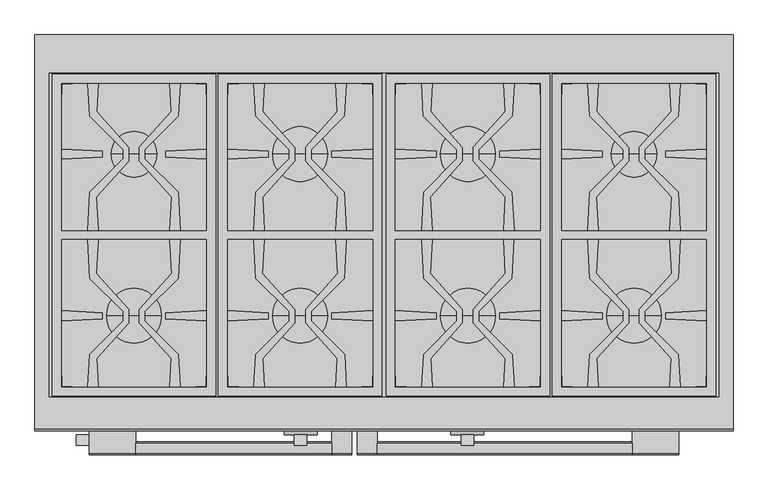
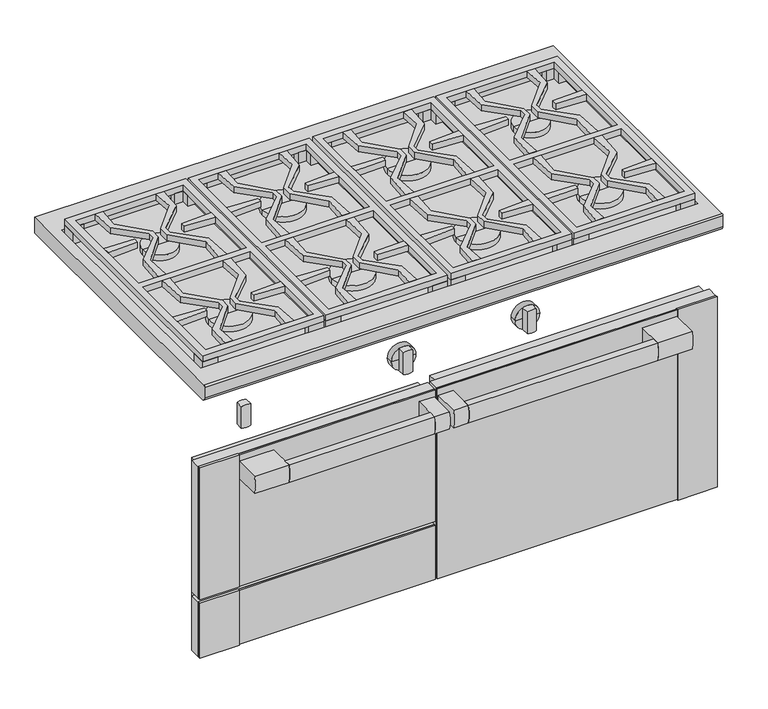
"""IFC4 building model written with IfcOpenShell, lengths in millimetres: proxy geometry, 11791670_USA_HR1954-3G_EDST-CLST : 25195481_USA_11791670_HR1954-3G_EDST-CLST."""

from ifc_helpers import new_model, si_unit, point, frame, frame_2d, origin, place, context, project, spatial, polyline, circle_curve, trimmed, segment, composite_curve, outline, extrude, faceted_brep, source, transform, mapped, element, save
from ifc_brep_helpers import plane_surface, cylinder_surface, advanced_brep


def specialty_equipment_d0c5894f(model_context):
    return source(origin(), model_context, "Body", "SolidModel", [
        extrude(outline(composite_curve([segment(trimmed(circle_curve(frame_2d((-655.4583333, 645.5)), 78.5416667), [point((-731.0, 624.0))], [point((-731.0, 667.0))], False, "CARTESIAN"), True, "CONTINUOUS"), segment(polyline([(-731.0, 667.0), (-714.0, 667.0)]), True, "CONTINUOUS"), segment(trimmed(circle_curve(frame_2d((-789.5416667, 645.5)), 78.5416667), [point((-714.0, 667.0))], [point((-714.0, 624.0))], False, "CARTESIAN"), True, "CONTINUOUS"), segment(polyline([(-714.0, 624.0), (-731.0, 624.0)]), True, "CONTINUOUS")], self_intersect=False)), frame((-11.5, 0.0, 0.0), z_axis=(1.0, 0.0, 0.0), x_axis=(0.0, 1.0, 0.0)), (0.0, 0.0, 1.0), 445.0),
        extrude(outline(composite_curve([segment(trimmed(circle_curve(frame_2d((-655.4583333, 645.5)), 78.5416667), [point((-731.0, 624.0))], [point((-731.0, 667.0))], False, "CARTESIAN"), True, "CONTINUOUS"), segment(polyline([(-731.0, 667.0), (-714.0, 667.0)]), True, "CONTINUOUS"), segment(trimmed(circle_curve(frame_2d((-789.5416667, 645.5)), 78.5416667), [point((-714.0, 667.0))], [point((-714.0, 624.0))], False, "CARTESIAN"), True, "CONTINUOUS"), segment(polyline([(-714.0, 624.0), (-731.0, 624.0)]), True, "CONTINUOUS")], self_intersect=False)), frame((-433.5, 0.0, 0.0), z_axis=(1.0, 0.0, 0.0), x_axis=(0.0, 1.0, 0.0)), (0.0, 0.0, 1.0), 342.0),
        extrude(outline(composite_curve([segment(polyline([(-731.0, 667.0), (-668.7, 667.0), (-668.7, 624.0), (-731.0, 624.0)]), True, "CONTINUOUS"), segment(trimmed(circle_curve(frame_2d((-655.4583333, 645.5)), 78.5416667), [point((-731.0, 624.0))], [point((-731.0, 667.0))], False, "CARTESIAN"), True, "CONTINUOUS")], self_intersect=False)), frame((-46.5, 0.0, 0.0), z_axis=(1.0, 0.0, 0.0), x_axis=(0.0, 1.0, 0.0)), (0.0, 0.0, 1.0), 35.0),
        extrude(outline(composite_curve([segment(polyline([(-731.0, 667.0), (-668.7, 667.0), (-668.7, 624.0), (-731.0, 624.0)]), True, "CONTINUOUS"), segment(trimmed(circle_curve(frame_2d((-655.4583333, 645.5)), 78.5416667), [point((-731.0, 624.0))], [point((-731.0, 667.0))], False, "CARTESIAN"), True, "CONTINUOUS")], self_intersect=False)), frame((-91.5, 0.0, 0.0), z_axis=(1.0, 0.0, 0.0), x_axis=(0.0, 1.0, 0.0)), (0.0, 0.0, 1.0), 35.0),
        extrude(outline(composite_curve([segment(polyline([(-731.0, 667.0), (-668.7, 667.0), (-668.7, 624.0), (-731.0, 624.0)]), True, "CONTINUOUS"), segment(trimmed(circle_curve(frame_2d((-655.4583333, 645.5)), 78.5416667), [point((-731.0, 624.0))], [point((-731.0, 667.0))], False, "CARTESIAN"), True, "CONTINUOUS")], self_intersect=False)), frame((433.5, 0.0, 0.0), z_axis=(1.0, 0.0, 0.0), x_axis=(0.0, 1.0, 0.0)), (0.0, 0.0, 1.0), 81.0),
        extrude(outline(composite_curve([segment(polyline([(-668.7, 667.0), (-668.7, 624.0), (-731.0, 624.0)]), True, "CONTINUOUS"), segment(trimmed(circle_curve(frame_2d((-655.4583333, 645.5)), 78.5416667), [point((-731.0, 624.0))], [point((-731.0, 667.0))], False, "CARTESIAN"), True, "CONTINUOUS"), segment(polyline([(-731.0, 667.0), (-668.7, 667.0)]), True, "CONTINUOUS")], self_intersect=False)), frame((-514.5, 0.0, 0.0), z_axis=(1.0, 0.0, 0.0), x_axis=(0.0, 1.0, 0.0)), (0.0, 0.0, 1.0), 81.0),
        extrude(outline(polyline([(-596.5, -617.0), (-65.5, -617.0), (-65.5, -638.0), (-596.5, -638.0), (-596.5, -617.0)])), frame((0.0, 0.0, 211.5), z_axis=(0.0, 0.0, 1.0), x_axis=(1.0, 0.0, 0.0)), (0.0, 0.0, 1.0), 134.0),
        extrude(outline(polyline([(-596.5, -617.0), (-65.5, -617.0), (-65.5, -638.0), (-596.5, -638.0), (-596.5, -617.0)])), frame((0.0, 0.0, 359.0), z_axis=(0.0, 0.0, 1.0), x_axis=(1.0, 0.0, 0.0)), (0.0, 0.0, 1.0), 315.0),
        extrude(outline(polyline([(-36.5, -617.0), (596.5, -617.0), (596.5, -638.0), (-36.5, -638.0), (-36.5, -617.0)])), frame((0.0, 0.0, 218.0), z_axis=(0.0, 0.0, 1.0), x_axis=(1.0, 0.0, 0.0)), (0.0, 0.0, 1.0), 464.0),
        extrude(outline(polyline([(-608.5, -638.0), (-53.5, -638.0), (-53.5, -664.7), (-608.5, -664.7), (-608.5, -638.0)])), frame((0.0, 0.0, 211.0), z_axis=(0.0, 0.0, 1.0), x_axis=(1.0, 0.0, 0.0)), (0.0, 0.0, 1.0), 135.0),
        extrude(outline(polyline([(-48.5, -638.0), (608.5, -638.0), (608.5, -664.7), (-48.5, -664.7), (-48.5, -638.0)])), frame((0.0, 0.0, 211.0), z_axis=(0.0, 0.0, 1.0), x_axis=(1.0, 0.0, 0.0)), (0.0, 0.0, 1.0), 472.0),
        extrude(outline(polyline([(-608.5, -638.0), (-53.5, -638.0), (-53.5, -664.7), (-608.5, -664.7), (-608.5, -638.0)])), frame((0.0, 0.0, 356.0), z_axis=(0.0, 0.0, 1.0), x_axis=(1.0, 0.0, 0.0)), (0.0, 0.0, 1.0), 327.0),
        extrude(outline(polyline([(-607.5, -664.7), (-53.5, -664.7), (-53.5, -668.7), (-607.5, -668.7), (-607.5, -664.7)])), frame((0.0, 0.0, 211.0), z_axis=(0.0, 0.0, 1.0), x_axis=(1.0, 0.0, 0.0)), (0.0, 0.0, 1.0), 135.0),
        faceted_brep([(-515.5, -664.7, 210.0), (-608.5, -664.7, 210.0), (-608.5, -664.7, 347.0), (-515.5, -664.7, 347.0), (-515.5, -664.7, 346.0), (-607.5, -664.7, 346.0), (-607.5, -664.7, 211.0), (-515.5, -664.7, 211.0), (-515.5, -670.0, 347.0), (-608.5, -670.0, 347.0), (-608.5, -670.0, 210.0), (-515.5, -670.0, 210.0), (-515.5, -668.7, 211.0), (-515.5, -668.7, 346.0), (-607.5, -668.7, 211.0), (-607.5, -668.7, 346.0)], [[[0, 1, 2, 3, 4, 5, 6, 7]], [[8, 9, 10, 11]], [[8, 11, 0, 7, 12, 13, 4, 3]], [[1, 0, 11, 10]], [[2, 1, 10, 9]], [[3, 2, 9, 8]], [[12, 14, 15, 13]], [[14, 12, 7, 6]], [[15, 14, 6, 5]], [[13, 15, 5, 4]]]),
        extrude(outline(polyline([(-607.5, -664.7), (-53.5, -664.7), (-53.5, -668.7), (-607.5, -668.7), (-607.5, -664.7)])), frame((0.0, 0.0, 356.0), z_axis=(0.0, 0.0, 1.0), x_axis=(1.0, 0.0, 0.0)), (0.0, 0.0, 1.0), 327.0),
        faceted_brep([(-515.5, -664.7, 355.0), (-608.5, -664.7, 355.0), (-608.5, -664.7, 684.0), (-515.5, -664.7, 684.0), (-515.5, -664.7, 683.0), (-607.5, -664.7, 683.0), (-607.5, -664.7, 356.0), (-515.5, -664.7, 356.0), (-515.5, -670.0, 684.0), (-608.5, -670.0, 684.0), (-608.5, -670.0, 355.0), (-515.5, -670.0, 355.0), (-515.5, -668.7, 356.0), (-515.5, -668.7, 683.0), (-607.5, -668.7, 356.0), (-607.5, -668.7, 683.0)], [[[0, 1, 2, 3, 4, 5, 6, 7]], [[8, 9, 10, 11]], [[8, 11, 0, 7, 12, 13, 4, 3]], [[1, 0, 11, 10]], [[2, 1, 10, 9]], [[3, 2, 9, 8]], [[12, 14, 15, 13]], [[14, 12, 7, 6]], [[15, 14, 6, 5]], [[13, 15, 5, 4]]]),
        extrude(outline(polyline([(-48.5, -664.7), (607.5, -664.7), (607.5, -668.7), (-48.5, -668.7), (-48.5, -664.7)])), frame((0.0, 0.0, 211.0), z_axis=(0.0, 0.0, 1.0), x_axis=(1.0, 0.0, 0.0)), (0.0, 0.0, 1.0), 472.0),
        faceted_brep([(608.5, -664.7, 684.0), (608.5, -664.7, 210.0), (515.5, -664.7, 210.0), (515.5, -664.7, 211.0), (607.5, -664.7, 211.0), (607.5, -664.7, 683.0), (515.5, -664.7, 683.0), (515.5, -664.7, 684.0), (608.5, -670.0, 684.0), (515.5, -670.0, 684.0), (515.5, -670.0, 210.0), (608.5, -670.0, 210.0), (515.5, -668.7, 683.0), (515.5, -668.7, 211.0), (607.5, -668.7, 683.0), (607.5, -668.7, 211.0)], [[[0, 1, 2, 3, 4, 5, 6, 7]], [[8, 9, 10, 11]], [[1, 0, 8, 11]], [[2, 1, 11, 10]], [[10, 9, 7, 6, 12, 13, 3, 2]], [[0, 7, 9, 8]], [[14, 15, 13, 12]], [[15, 14, 5, 4]], [[13, 15, 4, 3]], [[14, 12, 6, 5]]]),
        extrude(outline(polyline([(355.9177304, -358.0273828), (373.9174107, -358.0273828), (370.8474419, -416.9894265), (426.9590566, -479.568392), (426.9590566, -503.4471434), (371.3930533, -565.5024535), (374.0051055, -615.0212482), (356.0054252, -615.0212482), (358.9706458, -558.0710081), (417.3494553, -499.6921986), (417.3494553, -483.3657133), (359.4764383, -425.4926963), (355.9177304, -358.0273828)])), frame((0.0, 0.0, 914.0), z_axis=(0.0, 0.0, 1.0), x_axis=(1.0, 0.0, 0.0)), (0.0, 0.0, 1.0), 15.0),
        extrude(outline(polyline([(502.0666917, -416.9448139), (498.9588735, -358.0273828), (516.9534566, -358.0273828), (513.4434746, -425.4403498), (455.5712231, -483.3126013), (455.5712231, -499.6295194), (514.0438392, -558.1021355), (517.0462487, -615.0212482), (499.041471, -615.0212482), (501.6220648, -565.4581775), (445.9590702, -503.3795395), (445.9590702, -479.6049953), (502.0666917, -416.9448139)])), frame((0.0, 0.0, 914.0), z_axis=(0.0, 0.0, 1.0), x_axis=(1.0, 0.0, 0.0)), (0.0, 0.0, 1.0), 15.0),
        extrude(outline(polyline([(65.9177304, -358.0273828), (83.9174107, -358.0273828), (80.8474419, -416.9894265), (136.9590566, -479.568392), (136.9590566, -503.4471434), (81.3930533, -565.5024535), (84.0051055, -615.0212482), (66.0054252, -615.0212482), (68.9706458, -558.0710081), (127.3494553, -499.6921986), (127.3494553, -483.3657133), (69.4764383, -425.4926963), (65.9177304, -358.0273828)])), frame((0.0, 0.0, 914.0), z_axis=(0.0, 0.0, 1.0), x_axis=(1.0, 0.0, 0.0)), (0.0, 0.0, 1.0), 15.0),
        extrude(outline(polyline([(212.0666917, -416.9448139), (208.9588735, -358.0273828), (226.9534566, -358.0273828), (223.4434746, -425.4403498), (165.5712231, -483.3126013), (165.5712231, -499.6295194), (224.0438392, -558.1021355), (227.0462487, -615.0212482), (209.041471, -615.0212482), (211.6220648, -565.4581775), (155.9590702, -503.3795395), (155.9590702, -479.6049953), (212.0666917, -416.9448139)])), frame((0.0, 0.0, 914.0), z_axis=(0.0, 0.0, 1.0), x_axis=(1.0, 0.0, 0.0)), (0.0, 0.0, 1.0), 15.0),
        extrude(outline(polyline([(-227.0822696, -358.0273828), (-209.0825893, -358.0273828), (-212.1525581, -416.9894265), (-156.0409434, -479.568392), (-156.0409434, -503.4471434), (-211.6069467, -565.5024535), (-208.9948945, -615.0212482), (-226.9945748, -615.0212482), (-224.0293542, -558.0710081), (-165.6505447, -499.6921986), (-165.6505447, -483.3657133), (-223.5235617, -425.4926963), (-227.0822696, -358.0273828)])), frame((0.0, 0.0, 914.0), z_axis=(0.0, 0.0, 1.0), x_axis=(1.0, 0.0, 0.0)), (0.0, 0.0, 1.0), 15.0),
        extrude(outline(polyline([(-84.0411265, -358.0273828), (-66.0465434, -358.0273828), (-69.5565254, -425.4403498), (-127.4287769, -483.3126013), (-127.4287769, -499.6295194), (-68.9561608, -558.1021355), (-65.9537513, -615.0212482), (-83.958529, -615.0212482), (-81.3779352, -565.4581775), (-137.0409298, -503.3795395), (-137.0409298, -479.6049953), (-80.9333083, -416.9448139), (-84.0411265, -358.0273828)])), frame((0.0, 0.0, 914.0), z_axis=(0.0, 0.0, 1.0), x_axis=(1.0, 0.0, 0.0)), (0.0, 0.0, 1.0), 15.0),
        extrude(outline(polyline([(-358.9561608, -558.1021355), (-355.9537513, -615.0212482), (-373.958529, -615.0212482), (-371.3779352, -565.4581775), (-427.0409298, -503.3795395), (-427.0409298, -479.6049953), (-370.9333083, -416.9448139), (-374.0411265, -358.0273828), (-356.0465434, -358.0273828), (-359.5565254, -425.4403498), (-417.4287769, -483.3126013), (-417.4287769, -499.6295194), (-358.9561608, -558.1021355)])), frame((0.0, 0.0, 914.0), z_axis=(0.0, 0.0, 1.0), x_axis=(1.0, 0.0, 0.0)), (0.0, 0.0, 1.0), 15.0),
        extrude(outline(polyline([(-501.6069467, -565.5024535), (-498.9948945, -615.0212482), (-516.9945748, -615.0212482), (-514.0293542, -558.0710081), (-455.6505447, -499.6921986), (-455.6505447, -483.3657133), (-513.5235617, -425.4926963), (-517.0822696, -358.0273828), (-499.0825893, -358.0273828), (-502.1525581, -416.9894265), (-446.0409434, -479.568392), (-446.0409434, -503.4471434), (-501.6069467, -565.5024535)])), frame((0.0, 0.0, 914.0), z_axis=(0.0, 0.0, 1.0), x_axis=(1.0, 0.0, 0.0)), (0.0, 0.0, 1.0), 15.0),
        extrude(outline(polyline([(355.9614138, -85.0), (373.9614138, -85.0), (371.3661974, -134.5196799), (427.0, -196.6082182), (427.0, -220.3917818), (370.8710782, -283.0328838), (373.9614138, -342.0), (355.9614138, -342.0), (359.4971843, -274.5334805), (417.3891082, -216.6415566), (417.3891082, -200.3584434), (358.9441217, -141.9134569), (355.9614138, -85.0)])), frame((0.0, 0.0, 914.0), z_axis=(0.0, 0.0, 1.0), x_axis=(1.0, 0.0, 0.0)), (0.0, 0.0, 1.0), 15.0),
        extrude(outline(polyline([(499.0, -85.0), (517.0, -85.0), (514.0172921, -141.9134569), (455.6108918, -200.3198573), (455.6108918, -216.6801428), (513.4642295, -274.5334805), (517.0, -342.0), (499.0, -342.0), (502.0903356, -283.0328839), (446.0, -220.4348449), (446.0, -196.5651551), (501.5952165, -134.5196799), (499.0, -85.0)])), frame((0.0, 0.0, 914.0), z_axis=(0.0, 0.0, 1.0), x_axis=(1.0, 0.0, 0.0)), (0.0, 0.0, 1.0), 15.0),
        extrude(outline(polyline([(-227.0385862, -85.0), (-209.0385862, -85.0), (-211.6338026, -134.5196799), (-156.0, -196.6082182), (-156.0, -220.3917818), (-212.1289218, -283.0328838), (-209.0385862, -342.0), (-227.0385862, -342.0), (-223.5028157, -274.5334805), (-165.6108918, -216.6415566), (-165.6108918, -200.3584434), (-224.0558783, -141.9134569), (-227.0385862, -85.0)])), frame((0.0, 0.0, 914.0), z_axis=(0.0, 0.0, 1.0), x_axis=(1.0, 0.0, 0.0)), (0.0, 0.0, 1.0), 15.0),
        extrude(outline(polyline([(-84.0, -85.0), (-66.0, -85.0), (-68.9827079, -141.9134569), (-127.3891082, -200.3198573), (-127.3891082, -216.6801428), (-69.5357705, -274.5334805), (-66.0, -342.0), (-84.0, -342.0), (-80.9096644, -283.0328839), (-137.0, -220.4348449), (-137.0, -196.5651551), (-81.4047835, -134.5196799), (-84.0, -85.0)])), frame((0.0, 0.0, 914.0), z_axis=(0.0, 0.0, 1.0), x_axis=(1.0, 0.0, 0.0)), (0.0, 0.0, 1.0), 15.0),
        extrude(outline(polyline([(83.9614138, -85.0), (81.3661974, -134.5196799), (137.0, -196.6082182), (137.0, -220.3917818), (80.8710782, -283.0328838), (83.9614138, -342.0), (65.9614138, -342.0), (69.4971843, -274.5334805), (127.3891082, -216.6415566), (127.3891082, -200.3584434), (68.9441217, -141.9134569), (65.9614138, -85.0), (83.9614138, -85.0)])), frame((0.0, 0.0, 914.0), z_axis=(0.0, 0.0, 1.0), x_axis=(1.0, 0.0, 0.0)), (0.0, 0.0, 1.0), 15.0),
        extrude(outline(polyline([(211.5952165, -134.5196799), (209.0, -85.0), (227.0, -85.0), (224.0172921, -141.9134569), (165.6108918, -200.3198573), (165.6108918, -216.6801428), (223.4642295, -274.5334805), (227.0, -342.0), (209.0, -342.0), (212.0903356, -283.0328839), (156.0, -220.4348449), (156.0, -196.5651551), (211.5952165, -134.5196799)])), frame((0.0, 0.0, 914.0), z_axis=(0.0, 0.0, 1.0), x_axis=(1.0, 0.0, 0.0)), (0.0, 0.0, 1.0), 15.0),
        extrude(outline(polyline([(579.0, -67.0), (579.0, -633.0), (294.0, -633.0), (294.0, -67.0), (579.0, -67.0)])), frame((0.0, 0.0, 870.0), z_axis=(0.0, 0.0, 1.0), x_axis=(1.0, 0.0, 0.0)), (0.0, 0.0, 1.0), 17.0),
        extrude(outline(polyline([(-294.0, -67.0), (-294.0, -633.0), (-579.0, -633.0), (-579.0, -67.0), (-294.0, -67.0)])), frame((0.0, 0.0, 870.0), z_axis=(0.0, 0.0, 1.0), x_axis=(1.0, 0.0, 0.0)), (0.0, 0.0, 1.0), 17.0),
        extrude(outline(polyline([(289.0, -69.0), (289.0, -631.0), (4.0, -631.0), (4.0, -69.0), (289.0, -69.0)])), frame((0.0, 0.0, 870.0), z_axis=(0.0, 0.0, 1.0), x_axis=(1.0, 0.0, 0.0)), (0.0, 0.0, 1.0), 17.0),
        extrude(outline(polyline([(-4.0, -67.0), (-4.0, -633.0), (-289.0, -633.0), (-289.0, -67.0), (-4.0, -67.0)])), frame((0.0, 0.0, 870.0), z_axis=(0.0, 0.0, 1.0), x_axis=(1.0, 0.0, 0.0)), (0.0, 0.0, 1.0), 17.0),
        extrude(outline(polyline([(-202.0, -213.7921261), (-273.0, -217.4578849), (-273.0, -199.5421151), (-202.0, -203.2078739), (-202.0, -213.7921261)])), frame((0.0, 0.0, 914.0), z_axis=(0.0, 0.0, 1.0), x_axis=(1.0, 0.0, 0.0)), (0.0, 0.0, 1.0), 15.0),
        extrude(outline(polyline([(-20.0, -199.5029948), (-20.0, -217.4970052), (-91.0, -213.7790477), (-91.0, -203.2209523), (-20.0, -199.5029948)])), frame((0.0, 0.0, 914.0), z_axis=(0.0, 0.0, 1.0), x_axis=(1.0, 0.0, 0.0)), (0.0, 0.0, 1.0), 15.0),
        extrude(outline(polyline([(-202.0, -496.2921261), (-273.0, -499.9578849), (-273.0, -482.0421151), (-202.0, -485.7078739), (-202.0, -496.2921261)])), frame((0.0, 0.0, 914.0), z_axis=(0.0, 0.0, 1.0), x_axis=(1.0, 0.0, 0.0)), (0.0, 0.0, 1.0), 15.0),
        extrude(outline(polyline([(-20.0, -482.0029948), (-20.0, -499.9970052), (-91.0, -496.2790477), (-91.0, -485.7209523), (-20.0, -482.0029948)])), frame((0.0, 0.0, 914.0), z_axis=(0.0, 0.0, 1.0), x_axis=(1.0, 0.0, 0.0)), (0.0, 0.0, 1.0), 15.0),
        extrude(outline(polyline([(-4.0, -631.0), (-39.0, -631.0), (-39.0, -615.0), (-20.0, -615.0), (-20.0, -596.0), (-4.0, -596.0), (-4.0, -631.0)])), frame((0.0, 0.0, 887.0), z_axis=(0.0, 0.0, 1.0), x_axis=(1.0, 0.0, 0.0)), (0.0, 0.0, 1.0), 27.0),
        extrude(outline(polyline([(-289.0, -631.0), (-289.0, -596.0), (-273.0, -596.0), (-273.0, -615.0), (-254.0, -615.0), (-254.0, -631.0), (-289.0, -631.0)])), frame((0.0, 0.0, 887.0), z_axis=(0.0, 0.0, 1.0), x_axis=(1.0, 0.0, 0.0)), (0.0, 0.0, 1.0), 27.0),
        extrude(outline(polyline([(-4.0, -69.0), (-4.0, -104.0), (-20.0, -104.0), (-20.0, -85.0), (-39.0, -85.0), (-39.0, -69.0), (-4.0, -69.0)])), frame((0.0, 0.0, 887.0), z_axis=(0.0, 0.0, 1.0), x_axis=(1.0, 0.0, 0.0)), (0.0, 0.0, 1.0), 27.0),
        extrude(outline(polyline([(-289.0, -69.0), (-254.0, -69.0), (-254.0, -85.0), (-273.0, -85.0), (-273.0, -104.0), (-289.0, -104.0), (-289.0, -69.0)])), frame((0.0, 0.0, 887.0), z_axis=(0.0, 0.0, 1.0), x_axis=(1.0, 0.0, 0.0)), (0.0, 0.0, 1.0), 27.0),
        extrude(outline(polyline([(-563.0, -217.4810574), (-563.0, -199.5189426), (-492.0, -203.2078739), (-492.0, -213.7921261), (-563.0, -217.4810574)])), frame((0.0, 0.0, 914.0), z_axis=(0.0, 0.0, 1.0), x_axis=(1.0, 0.0, 0.0)), (0.0, 0.0, 1.0), 15.0),
        extrude(outline(polyline([(-310.0, -199.5262039), (-310.0, -217.4737961), (-381.0, -213.7790477), (-381.0, -203.2209523), (-310.0, -199.5262039)])), frame((0.0, 0.0, 914.0), z_axis=(0.0, 0.0, 1.0), x_axis=(1.0, 0.0, 0.0)), (0.0, 0.0, 1.0), 15.0),
        extrude(outline(polyline([(-563.0, -499.9810574), (-563.0, -482.0189426), (-492.0, -485.7078739), (-492.0, -496.2921261), (-563.0, -499.9810574)])), frame((0.0, 0.0, 914.0), z_axis=(0.0, 0.0, 1.0), x_axis=(1.0, 0.0, 0.0)), (0.0, 0.0, 1.0), 15.0),
        extrude(outline(polyline([(-310.0, -482.0262039), (-310.0, -499.9737961), (-381.0, -496.2790477), (-381.0, -485.7209523), (-310.0, -482.0262039)])), frame((0.0, 0.0, 914.0), z_axis=(0.0, 0.0, 1.0), x_axis=(1.0, 0.0, 0.0)), (0.0, 0.0, 1.0), 15.0),
        extrude(outline(polyline([(20.0337834, -499.9810574), (20.0337834, -482.0189426), (91.0337834, -485.7078739), (91.0337834, -496.2921261), (20.0337834, -499.9810574)])), frame((0.0, 0.0, 914.0), z_axis=(0.0, 0.0, 1.0), x_axis=(1.0, 0.0, 0.0)), (0.0, 0.0, 1.0), 15.0),
        extrude(outline(polyline([(273.0337834, -482.0262039), (273.0337834, -499.9737961), (202.0337834, -496.2790477), (202.0337834, -485.7209523), (273.0337834, -482.0262039)])), frame((0.0, 0.0, 914.0), z_axis=(0.0, 0.0, 1.0), x_axis=(1.0, 0.0, 0.0)), (0.0, 0.0, 1.0), 15.0),
        extrude(outline(polyline([(310.0, -499.9810574), (310.0, -482.0189426), (381.0, -485.7078739), (381.0, -496.2921261), (310.0, -499.9810574)])), frame((0.0, 0.0, 914.0), z_axis=(0.0, 0.0, 1.0), x_axis=(1.0, 0.0, 0.0)), (0.0, 0.0, 1.0), 15.0),
        extrude(outline(polyline([(563.0, -482.0262039), (563.0, -499.9737961), (492.0, -496.2790477), (492.0, -485.7209523), (563.0, -482.0262039)])), frame((0.0, 0.0, 914.0), z_axis=(0.0, 0.0, 1.0), x_axis=(1.0, 0.0, 0.0)), (0.0, 0.0, 1.0), 15.0),
        extrude(outline(polyline([(310.0, -217.4810574), (310.0, -199.5189426), (381.0, -203.2078739), (381.0, -213.7921261), (310.0, -217.4810574)])), frame((0.0, 0.0, 914.0), z_axis=(0.0, 0.0, 1.0), x_axis=(1.0, 0.0, 0.0)), (0.0, 0.0, 1.0), 15.0),
        extrude(outline(polyline([(563.0, -199.5262039), (563.0, -217.4737961), (492.0, -213.7790477), (492.0, -203.2209523), (563.0, -199.5262039)])), frame((0.0, 0.0, 914.0), z_axis=(0.0, 0.0, 1.0), x_axis=(1.0, 0.0, 0.0)), (0.0, 0.0, 1.0), 15.0),
        extrude(outline(polyline([(-517.0385862, -85.0), (-499.0385862, -85.0), (-501.6338026, -134.5196799), (-446.0, -196.6082182), (-446.0, -220.3917818), (-502.1289218, -283.0328838), (-499.0385862, -342.0), (-517.0385862, -342.0), (-513.5028157, -274.5334805), (-455.6108918, -216.6415566), (-455.6108918, -200.3584434), (-514.0558783, -141.9134569), (-517.0385862, -85.0)])), frame((0.0, 0.0, 914.0), z_axis=(0.0, 0.0, 1.0), x_axis=(1.0, 0.0, 0.0)), (0.0, 0.0, 1.0), 15.0),
        extrude(outline(polyline([(-356.0, -85.0), (-358.9827079, -141.9134569), (-417.3891082, -200.3198573), (-417.3891082, -216.6801428), (-359.5357705, -274.5334805), (-356.0, -342.0), (-374.0, -342.0), (-370.9096644, -283.0328839), (-427.0, -220.4348449), (-427.0, -196.5651551), (-371.4047835, -134.5196799), (-374.0, -85.0), (-356.0, -85.0)])), frame((0.0, 0.0, 914.0), z_axis=(0.0, 0.0, 1.0), x_axis=(1.0, 0.0, 0.0)), (0.0, 0.0, 1.0), 15.0),
        extrude(outline(polyline([(-294.0, -631.0), (-329.0, -631.0), (-329.0, -615.0), (-310.0, -615.0), (-310.0, -596.0), (-294.0, -596.0), (-294.0, -631.0)])), frame((0.0, 0.0, 887.0), z_axis=(0.0, 0.0, 1.0), x_axis=(1.0, 0.0, 0.0)), (0.0, 0.0, 1.0), 27.0),
        extrude(outline(polyline([(-579.0, -631.0), (-579.0, -596.0), (-563.0, -596.0), (-563.0, -615.0), (-544.0, -615.0), (-544.0, -631.0), (-579.0, -631.0)])), frame((0.0, 0.0, 887.0), z_axis=(0.0, 0.0, 1.0), x_axis=(1.0, 0.0, 0.0)), (0.0, 0.0, 1.0), 27.0),
        extrude(outline(polyline([(-294.0, -69.0), (-294.0, -104.0), (-310.0, -104.0), (-310.0, -85.0), (-329.0, -85.0), (-329.0, -69.0), (-294.0, -69.0)])), frame((0.0, 0.0, 887.0), z_axis=(0.0, 0.0, 1.0), x_axis=(1.0, 0.0, 0.0)), (0.0, 0.0, 1.0), 27.0),
        extrude(outline(polyline([(-579.0, -69.0), (-544.0, -69.0), (-544.0, -85.0), (-563.0, -85.0), (-563.0, -104.0), (-579.0, -104.0), (-579.0, -69.0)])), frame((0.0, 0.0, 887.0), z_axis=(0.0, 0.0, 1.0), x_axis=(1.0, 0.0, 0.0)), (0.0, 0.0, 1.0), 27.0),
        extrude(outline(polyline([(20.0337834, -217.4810574), (20.0337834, -199.5189426), (91.0337834, -203.2078739), (91.0337834, -213.7921261), (20.0337834, -217.4810574)])), frame((0.0, 0.0, 914.0), z_axis=(0.0, 0.0, 1.0), x_axis=(1.0, 0.0, 0.0)), (0.0, 0.0, 1.0), 15.0),
        extrude(outline(polyline([(273.0337834, -199.5262039), (273.0337834, -217.4737961), (202.0337834, -213.7790477), (202.0337834, -203.2209523), (273.0337834, -199.5262039)])), frame((0.0, 0.0, 914.0), z_axis=(0.0, 0.0, 1.0), x_axis=(1.0, 0.0, 0.0)), (0.0, 0.0, 1.0), 15.0),
        advanced_brep(
        [(396.5, -208.5, 887.0), (476.5, -208.5, 887.0), (476.5, -208.5, 901.0), (396.5, -208.5, 901.0), (436.5, -208.5, 887.0), (436.5, -208.5, 901.0)],
        [
            (0, 1, circle_curve(frame((436.5, -208.5, 887.0), z_axis=(0.0, 0.0, 1.0), x_axis=(1.0, 0.0, 0.0)), 40.0)),
            (1, 2),
            (2, 3, circle_curve(frame((436.5, -208.5, 901.0), z_axis=(0.0, 0.0, -1.0), x_axis=(1.0, 0.0, 0.0)), 40.0)),
            (3, 0),
            (1, 0, circle_curve(frame((436.5, -208.5, 887.0), z_axis=(0.0, 0.0, 1.0), x_axis=(1.0, 0.0, 0.0)), 40.0)),
            (3, 2, circle_curve(frame((436.5, -208.5, 901.0), z_axis=(0.0, 0.0, -1.0), x_axis=(1.0, 0.0, 0.0)), 40.0)),
            (4, 1),
            (0, 4),
            (2, 5),
            (5, 3),
        ],
        [
            cylinder_surface(frame((436.5, -208.5, 2424.4), z_axis=(0.0, 0.0, -1.0), x_axis=(1.0, 0.0, 0.0)), 40.0),
            plane_surface(frame((436.5, -208.5, 887.0), z_axis=(0.0, 0.0, -1.0), x_axis=(1.0, 0.0, 0.0))),
            plane_surface(frame((436.5, -208.5, 901.0), z_axis=(0.0, 0.0, 1.0), x_axis=(1.0, 0.0, 0.0))),
        ],
        [
            (0, [[1, 2, 3, 4]]),
            (0, [[5, -4, 6, -2]]),
            (1, [[7, -1, 8]]),
            (1, [[-8, -5, -7]]),
            (2, [[-3, 9, 10]]),
            (2, [[-6, -10, -9]]),
        ],
    ),
        extrude(outline(polyline([(-4.0, -69.0), (-4.0, -631.0), (-289.0, -631.0), (-289.0, -69.0), (-4.0, -69.0)]), holes=[polyline([(-20.0, -85.0), (-273.0, -85.0), (-273.0, -342.0), (-20.0, -342.0), (-20.0, -85.0)]), polyline([(-273.0, -358.0), (-273.0, -615.0), (-20.0, -615.0), (-20.0, -358.0), (-273.0, -358.0)])]), frame((0.0, 0.0, 914.0), z_axis=(0.0, 0.0, 1.0), x_axis=(1.0, 0.0, 0.0)), (0.0, 0.0, 1.0), 15.0),
        extrude(outline(polyline([(289.0, -69.0), (289.0, -631.0), (4.0, -631.0), (4.0, -69.0), (289.0, -69.0)]), holes=[polyline([(273.0337834, -85.0), (20.0337834, -85.0), (20.0337834, -342.0), (273.0337834, -342.0), (273.0337834, -85.0)]), polyline([(20.0337834, -358.0), (20.0337834, -615.0), (273.0337834, -615.0), (273.0337834, -358.0), (20.0337834, -358.0)])]), frame((0.0, 0.0, 914.0), z_axis=(0.0, 0.0, 1.0), x_axis=(1.0, 0.0, 0.0)), (0.0, 0.0, 1.0), 15.0),
        extrude(outline(polyline([(579.0, -69.0), (579.0, -631.0), (294.0, -631.0), (294.0, -69.0), (579.0, -69.0)]), holes=[polyline([(563.0, -85.0), (310.0, -85.0), (310.0, -342.0), (563.0, -342.0), (563.0, -85.0)]), polyline([(310.0, -358.0), (310.0, -615.0), (563.0, -615.0), (563.0, -358.0), (310.0, -358.0)])]), frame((0.0, 0.0, 914.0), z_axis=(0.0, 0.0, 1.0), x_axis=(1.0, 0.0, 0.0)), (0.0, 0.0, 1.0), 15.0),
        extrude(outline(polyline([(-294.0, -69.0), (-294.0, -631.0), (-579.0, -631.0), (-579.0, -69.0), (-294.0, -69.0)]), holes=[polyline([(-310.0, -85.0), (-563.0, -85.0), (-563.0, -342.0), (-310.0, -342.0), (-310.0, -85.0)]), polyline([(-563.0, -358.0), (-563.0, -615.0), (-310.0, -615.0), (-310.0, -358.0), (-563.0, -358.0)])]), frame((0.0, 0.0, 914.0), z_axis=(0.0, 0.0, 1.0), x_axis=(1.0, 0.0, 0.0)), (0.0, 0.0, 1.0), 15.0),
        advanced_brep(
        [(388.5, -491.0, 887.0), (484.5, -491.0, 887.0), (484.5, -491.0, 901.0), (388.5, -491.0, 901.0), (436.5, -491.0, 887.0), (436.5, -491.0, 901.0)],
        [
            (0, 1, circle_curve(frame((436.5, -491.0, 887.0), z_axis=(0.0, 0.0, 1.0), x_axis=(1.0, 0.0, 0.0)), 48.0)),
            (1, 2),
            (2, 3, circle_curve(frame((436.5, -491.0, 901.0), z_axis=(0.0, 0.0, -1.0), x_axis=(1.0, 0.0, 0.0)), 48.0)),
            (3, 0),
            (1, 0, circle_curve(frame((436.5, -491.0, 887.0), z_axis=(0.0, 0.0, 1.0), x_axis=(1.0, 0.0, 0.0)), 48.0)),
            (3, 2, circle_curve(frame((436.5, -491.0, 901.0), z_axis=(0.0, 0.0, -1.0), x_axis=(1.0, 0.0, 0.0)), 48.0)),
            (4, 1),
            (0, 4),
            (2, 5),
            (5, 3),
        ],
        [
            cylinder_surface(frame((436.5, -491.0, 2424.4), z_axis=(0.0, 0.0, -1.0), x_axis=(1.0, 0.0, 0.0)), 48.0),
            plane_surface(frame((436.5, -491.0, 887.0), z_axis=(0.0, 0.0, -1.0), x_axis=(1.0, 0.0, 0.0))),
            plane_surface(frame((436.5, -491.0, 901.0), z_axis=(0.0, 0.0, 1.0), x_axis=(1.0, 0.0, 0.0))),
        ],
        [
            (0, [[1, 2, 3, 4]]),
            (0, [[5, -4, 6, -2]]),
            (1, [[7, -1, 8]]),
            (1, [[-8, -5, -7]]),
            (2, [[-3, 9, 10]]),
            (2, [[-6, -10, -9]]),
        ],
    ),
        advanced_brep(
        [(-484.5, -491.0, 887.0), (-388.5, -491.0, 887.0), (-388.5, -491.0, 901.0), (-484.5, -491.0, 901.0), (-436.5, -491.0, 887.0), (-436.5, -491.0, 901.0)],
        [
            (0, 1, circle_curve(frame((-436.5, -491.0, 887.0), z_axis=(0.0, 0.0, 1.0), x_axis=(1.0, 0.0, 0.0)), 48.0)),
            (1, 2),
            (2, 3, circle_curve(frame((-436.5, -491.0, 901.0), z_axis=(0.0, 0.0, -1.0), x_axis=(1.0, 0.0, 0.0)), 48.0)),
            (3, 0),
            (1, 0, circle_curve(frame((-436.5, -491.0, 887.0), z_axis=(0.0, 0.0, 1.0), x_axis=(1.0, 0.0, 0.0)), 48.0)),
            (3, 2, circle_curve(frame((-436.5, -491.0, 901.0), z_axis=(0.0, 0.0, -1.0), x_axis=(1.0, 0.0, 0.0)), 48.0)),
            (4, 1),
            (0, 4),
            (2, 5),
            (5, 3),
        ],
        [
            cylinder_surface(frame((-436.5, -491.0, 2424.4), z_axis=(0.0, 0.0, -1.0), x_axis=(1.0, 0.0, 0.0)), 48.0),
            plane_surface(frame((-436.5, -491.0, 887.0), z_axis=(0.0, 0.0, -1.0), x_axis=(1.0, 0.0, 0.0))),
            plane_surface(frame((-436.5, -491.0, 901.0), z_axis=(0.0, 0.0, 1.0), x_axis=(1.0, 0.0, 0.0))),
        ],
        [
            (0, [[1, 2, 3, 4]]),
            (0, [[5, -4, 6, -2]]),
            (1, [[7, -1, 8]]),
            (1, [[-8, -5, -7]]),
            (2, [[-3, 9, 10]]),
            (2, [[-6, -10, -9]]),
        ],
    ),
        advanced_brep(
        [(-476.5, -208.5, 887.0), (-396.5, -208.5, 887.0), (-396.5, -208.5, 901.0), (-476.5, -208.5, 901.0), (-436.5, -208.5, 887.0), (-436.5, -208.5, 901.0)],
        [
            (0, 1, circle_curve(frame((-436.5, -208.5, 887.0), z_axis=(0.0, 0.0, 1.0), x_axis=(1.0, 0.0, 0.0)), 40.0)),
            (1, 2),
            (2, 3, circle_curve(frame((-436.5, -208.5, 901.0), z_axis=(0.0, 0.0, -1.0), x_axis=(1.0, 0.0, 0.0)), 40.0)),
            (3, 0),
            (1, 0, circle_curve(frame((-436.5, -208.5, 887.0), z_axis=(0.0, 0.0, 1.0), x_axis=(1.0, 0.0, 0.0)), 40.0)),
            (3, 2, circle_curve(frame((-436.5, -208.5, 901.0), z_axis=(0.0, 0.0, -1.0), x_axis=(1.0, 0.0, 0.0)), 40.0)),
            (4, 1),
            (0, 4),
            (2, 5),
            (5, 3),
        ],
        [
            cylinder_surface(frame((-436.5, -208.5, 2424.4), z_axis=(0.0, 0.0, -1.0), x_axis=(1.0, 0.0, 0.0)), 40.0),
            plane_surface(frame((-436.5, -208.5, 887.0), z_axis=(0.0, 0.0, -1.0), x_axis=(1.0, 0.0, 0.0))),
            plane_surface(frame((-436.5, -208.5, 901.0), z_axis=(0.0, 0.0, 1.0), x_axis=(1.0, 0.0, 0.0))),
        ],
        [
            (0, [[1, 2, 3, 4]]),
            (0, [[5, -4, 6, -2]]),
            (1, [[7, -1, 8]]),
            (1, [[-8, -5, -7]]),
            (2, [[-3, 9, 10]]),
            (2, [[-6, -10, -9]]),
        ],
    ),
        extrude(outline(polyline([(579.0, -631.0), (544.0, -631.0), (544.0, -615.0), (563.0, -615.0), (563.0, -596.0), (579.0, -596.0), (579.0, -631.0)])), frame((0.0, 0.0, 887.0), z_axis=(0.0, 0.0, 1.0), x_axis=(1.0, 0.0, 0.0)), (0.0, 0.0, 1.0), 27.0),
        extrude(outline(polyline([(294.0, -631.0), (294.0, -596.0), (310.0125078, -596.0), (310.0125078, -615.0), (329.0, -615.0), (329.0, -631.0), (294.0, -631.0)])), frame((0.0, 0.0, 887.0), z_axis=(0.0, 0.0, 1.0), x_axis=(1.0, 0.0, 0.0)), (0.0, 0.0, 1.0), 27.0),
        extrude(outline(polyline([(579.0, -69.0), (579.0, -104.0), (562.9874922, -104.0), (562.9874922, -85.0), (544.0, -85.0), (544.0, -69.0), (579.0, -69.0)])), frame((0.0, 0.0, 887.0), z_axis=(0.0, 0.0, 1.0), x_axis=(1.0, 0.0, 0.0)), (0.0, 0.0, 1.0), 27.0),
        extrude(outline(polyline([(294.0, -69.0), (329.0, -69.0), (329.0, -85.0), (310.0125078, -85.0), (310.0125078, -104.0), (294.0, -104.0), (294.0, -69.0)])), frame((0.0, 0.0, 887.0), z_axis=(0.0, 0.0, 1.0), x_axis=(1.0, 0.0, 0.0)), (0.0, 0.0, 1.0), 27.0),
        extrude(outline(polyline([(289.0, -631.0), (254.0, -631.0), (254.0, -615.0), (273.0337834, -615.0), (273.0337834, -596.0), (289.0, -596.0), (289.0, -631.0)])), frame((0.0, 0.0, 887.0), z_axis=(0.0, 0.0, 1.0), x_axis=(1.0, 0.0, 0.0)), (0.0, 0.0, 1.0), 27.0),
        extrude(outline(polyline([(4.0, -631.0), (4.0, -596.0), (20.0337834, -596.0), (20.0337834, -615.0), (39.0, -615.0), (39.0, -631.0), (4.0, -631.0)])), frame((0.0, 0.0, 887.0), z_axis=(0.0, 0.0, 1.0), x_axis=(1.0, 0.0, 0.0)), (0.0, 0.0, 1.0), 27.0),
        extrude(outline(polyline([(289.0, -69.0), (289.0, -104.0), (273.0337834, -104.0), (273.0337834, -85.0), (254.0, -85.0), (254.0, -69.0), (289.0, -69.0)])), frame((0.0, 0.0, 887.0), z_axis=(0.0, 0.0, 1.0), x_axis=(1.0, 0.0, 0.0)), (0.0, 0.0, 1.0), 27.0),
        extrude(outline(polyline([(4.0, -69.0), (39.0, -69.0), (39.0, -85.0), (20.0337834, -85.0), (20.0337834, -104.0), (4.0, -104.0), (4.0, -69.0)])), frame((0.0, 0.0, 887.0), z_axis=(0.0, 0.0, 1.0), x_axis=(1.0, 0.0, 0.0)), (0.0, 0.0, 1.0), 27.0),
        advanced_brep(
        [(98.5, -208.5, 887.0), (194.5, -208.5, 887.0), (194.5, -208.5, 901.0), (98.5, -208.5, 901.0), (146.5, -208.5, 887.0), (146.5, -208.5, 901.0)],
        [
            (0, 1, circle_curve(frame((146.5, -208.5, 887.0), z_axis=(0.0, 0.0, 1.0), x_axis=(1.0, 0.0, 0.0)), 48.0)),
            (1, 2),
            (2, 3, circle_curve(frame((146.5, -208.5, 901.0), z_axis=(0.0, 0.0, -1.0), x_axis=(1.0, 0.0, 0.0)), 48.0)),
            (3, 0),
            (1, 0, circle_curve(frame((146.5, -208.5, 887.0), z_axis=(0.0, 0.0, 1.0), x_axis=(1.0, 0.0, 0.0)), 48.0)),
            (3, 2, circle_curve(frame((146.5, -208.5, 901.0), z_axis=(0.0, 0.0, -1.0), x_axis=(1.0, 0.0, 0.0)), 48.0)),
            (4, 1),
            (0, 4),
            (2, 5),
            (5, 3),
        ],
        [
            cylinder_surface(frame((146.5, -208.5, 2338.4), z_axis=(0.0, 0.0, -1.0), x_axis=(1.0, 0.0, 0.0)), 48.0),
            plane_surface(frame((146.5, -208.5, 887.0), z_axis=(0.0, 0.0, -1.0), x_axis=(1.0, 0.0, 0.0))),
            plane_surface(frame((146.5, -208.5, 901.0), z_axis=(0.0, 0.0, 1.0), x_axis=(1.0, 0.0, 0.0))),
        ],
        [
            (0, [[1, 2, 3, 4]]),
            (0, [[5, -4, 6, -2]]),
            (1, [[7, -1, 8]]),
            (1, [[-8, -5, -7]]),
            (2, [[-3, 9, 10]]),
            (2, [[-6, -10, -9]]),
        ],
    ),
        advanced_brep(
        [(-146.5, -208.5, 887.0), (-98.5, -208.5, 887.0), (-194.5, -208.5, 887.0), (-194.5, -208.5, 901.0), (-98.5, -208.5, 901.0), (-146.5, -208.5, 901.0)],
        [
            (0, 1),
            (1, 2, circle_curve(frame((-146.5, -208.5, 887.0), z_axis=(0.0, 0.0, -1.0), x_axis=(1.0, 0.0, 0.0)), 48.0)),
            (2, 0),
            (2, 1, circle_curve(frame((-146.5, -208.5, 887.0), z_axis=(0.0, 0.0, -1.0), x_axis=(1.0, 0.0, 0.0)), 48.0)),
            (3, 4, circle_curve(frame((-146.5, -208.5, 901.0), z_axis=(0.0, 0.0, 1.0), x_axis=(1.0, 0.0, 0.0)), 48.0)),
            (4, 5),
            (5, 3),
            (4, 3, circle_curve(frame((-146.5, -208.5, 901.0), z_axis=(0.0, 0.0, 1.0), x_axis=(1.0, 0.0, 0.0)), 48.0)),
            (1, 4),
            (3, 2),
        ],
        [
            plane_surface(frame((-146.5, -208.5, 887.0), z_axis=(0.0, 0.0, -1.0), x_axis=(1.0, 0.0, 0.0))),
            plane_surface(frame((-146.5, -208.5, 901.0), z_axis=(0.0, 0.0, 1.0), x_axis=(1.0, 0.0, 0.0))),
            cylinder_surface(frame((-146.5, -208.5, 2424.4), z_axis=(0.0, 0.0, -1.0), x_axis=(1.0, 0.0, 0.0)), 48.0),
        ],
        [
            (0, [[1, 2, 3]]),
            (0, [[-3, 4, -1]]),
            (1, [[5, 6, 7]]),
            (1, [[8, -7, -6]]),
            (2, [[-2, 9, -5, 10]]),
            (2, [[-4, -10, -8, -9]]),
        ],
    ),
        advanced_brep(
        [(-194.5, -491.0, 887.0), (-98.5, -491.0, 887.0), (-98.5, -491.0, 901.0), (-194.5, -491.0, 901.0), (-146.5, -491.0, 887.0), (-146.5, -491.0, 901.0)],
        [
            (0, 1, circle_curve(frame((-146.5, -491.0, 887.0), z_axis=(0.0, 0.0, 1.0), x_axis=(1.0, 0.0, 0.0)), 48.0)),
            (1, 2),
            (2, 3, circle_curve(frame((-146.5, -491.0, 901.0), z_axis=(0.0, 0.0, -1.0), x_axis=(1.0, 0.0, 0.0)), 48.0)),
            (3, 0),
            (1, 0, circle_curve(frame((-146.5, -491.0, 887.0), z_axis=(0.0, 0.0, 1.0), x_axis=(1.0, 0.0, 0.0)), 48.0)),
            (3, 2, circle_curve(frame((-146.5, -491.0, 901.0), z_axis=(0.0, 0.0, -1.0), x_axis=(1.0, 0.0, 0.0)), 48.0)),
            (4, 1),
            (0, 4),
            (2, 5),
            (5, 3),
        ],
        [
            cylinder_surface(frame((-146.5, -491.0, 2424.4), z_axis=(0.0, 0.0, -1.0), x_axis=(1.0, 0.0, 0.0)), 48.0),
            plane_surface(frame((-146.5, -491.0, 887.0), z_axis=(0.0, 0.0, -1.0), x_axis=(1.0, 0.0, 0.0))),
            plane_surface(frame((-146.5, -491.0, 901.0), z_axis=(0.0, 0.0, 1.0), x_axis=(1.0, 0.0, 0.0))),
        ],
        [
            (0, [[1, 2, 3, 4]]),
            (0, [[5, -4, 6, -2]]),
            (1, [[7, -1, 8]]),
            (1, [[-8, -5, -7]]),
            (2, [[-3, 9, 10]]),
            (2, [[-6, -10, -9]]),
        ],
    ),
        advanced_brep(
        [(98.5, -491.0, 887.0), (194.5, -491.0, 887.0), (194.5, -491.0, 901.0), (98.5, -491.0, 901.0), (146.5, -491.0, 887.0), (146.5, -491.0, 901.0)],
        [
            (0, 1, circle_curve(frame((146.5, -491.0, 887.0), z_axis=(0.0, 0.0, 1.0), x_axis=(1.0, 0.0, 0.0)), 48.0)),
            (1, 2),
            (2, 3, circle_curve(frame((146.5, -491.0, 901.0), z_axis=(0.0, 0.0, -1.0), x_axis=(1.0, 0.0, 0.0)), 48.0)),
            (3, 0),
            (1, 0, circle_curve(frame((146.5, -491.0, 887.0), z_axis=(0.0, 0.0, 1.0), x_axis=(1.0, 0.0, 0.0)), 48.0)),
            (3, 2, circle_curve(frame((146.5, -491.0, 901.0), z_axis=(0.0, 0.0, -1.0), x_axis=(1.0, 0.0, 0.0)), 48.0)),
            (4, 1),
            (0, 4),
            (2, 5),
            (5, 3),
        ],
        [
            cylinder_surface(frame((146.5, -491.0, 2424.4), z_axis=(0.0, 0.0, -1.0), x_axis=(1.0, 0.0, 0.0)), 48.0),
            plane_surface(frame((146.5, -491.0, 887.0), z_axis=(0.0, 0.0, -1.0), x_axis=(1.0, 0.0, 0.0))),
            plane_surface(frame((146.5, -491.0, 901.0), z_axis=(0.0, 0.0, 1.0), x_axis=(1.0, 0.0, 0.0))),
        ],
        [
            (0, [[1, 2, 3, 4]]),
            (0, [[5, -4, 6, -2]]),
            (1, [[7, -1, 8]]),
            (1, [[-8, -5, -7]]),
            (2, [[-3, 9, 10]]),
            (2, [[-6, -10, -9]]),
        ],
    ),
        advanced_brep(
        [(609.5, 0.0, 902.0), (609.5, -688.3499547, 902.0), (609.5, -692.0, 898.3499547), (609.5, -692.0, 872.0), (609.5, -682.0, 862.0), (609.5, 0.0, 862.0), (-609.5, 0.0, 902.0), (-609.5, 0.0, 862.0), (-609.5, -682.0, 862.0), (-609.5, -692.0, 872.0), (-609.5, -692.0, 898.3499547), (-609.5, -688.3499547, 902.0), (-584.5, -67.0, 902.0), (584.5, -67.0, 902.0), (584.5, -633.0, 902.0), (-584.5, -633.0, 902.0), (584.5, -67.0, 870.0), (-584.5, -67.0, 870.0), (-584.5, -633.0, 870.0), (584.5, -633.0, 870.0)],
        [
            (0, 1),
            (1, 2, circle_curve(frame((609.5, -688.0, 898.0), z_axis=(1.0, 0.0, 0.0), x_axis=(0.0, 0.0, 1.0)), 4.0152794)),
            (2, 3),
            (3, 4, circle_curve(frame((609.5, -682.0, 872.0), z_axis=(1.0, 0.0, 0.0), x_axis=(0.0, 0.0, 1.0)), 10.0)),
            (4, 5),
            (5, 0),
            (6, 7),
            (7, 8),
            (8, 9, circle_curve(frame((-609.5, -682.0, 872.0), z_axis=(-1.0, 0.0, 0.0), x_axis=(0.0, 0.0, 1.0)), 10.0)),
            (9, 10),
            (10, 11, circle_curve(frame((-609.5, -688.0, 898.0), z_axis=(-1.0, 0.0, 0.0), x_axis=(0.0, 0.0, 1.0)), 4.0152794)),
            (11, 6),
            (0, 6),
            (11, 1),
            (12, 13),
            (13, 14),
            (14, 15),
            (15, 12),
            (10, 2),
            (9, 3),
            (8, 4),
            (7, 5),
            (16, 17),
            (17, 18),
            (18, 19),
            (19, 16),
            (16, 13),
            (12, 17),
            (15, 18),
            (14, 19),
        ],
        [
            plane_surface(frame((609.5, -688.3499547, 902.0), z_axis=(1.0, 0.0, 0.0), x_axis=(0.0, -1.0, 0.0))),
            plane_surface(frame((-609.5, -688.3499547, 902.0), z_axis=(-1.0, 0.0, 0.0), x_axis=(0.0, 1.0, 0.0))),
            plane_surface(frame((609.5, 0.0, 902.0), z_axis=(0.0, 0.0, 1.0), x_axis=(-1.0, 0.0, 0.0))),
            cylinder_surface(frame((-609.5, -688.0, 898.0), z_axis=(1.0, 0.0, 0.0), x_axis=(0.0, 0.0, 1.0)), 4.0152794),
            plane_surface(frame((609.5, -692.0, 898.3499547), z_axis=(0.0, -1.0, 0.0), x_axis=(-1.0, 0.0, 0.0))),
            cylinder_surface(frame((-609.5, -682.0, 872.0), z_axis=(1.0, 0.0, 0.0), x_axis=(0.0, 0.0, 1.0)), 10.0),
            plane_surface(frame((609.5, -682.0, 862.0), z_axis=(0.0, 0.0, -1.0), x_axis=(-1.0, 0.0, 0.0))),
            plane_surface(frame((609.5, 0.0, 862.0), z_axis=(0.0, 1.0, 0.0), x_axis=(-1.0, 0.0, 0.0))),
            plane_surface(frame((-584.5, -67.0, 870.0), z_axis=(0.0, 0.0, 1.0), x_axis=(1.0, 0.0, 0.0))),
            plane_surface(frame((584.5, -67.0, 902.0), z_axis=(0.0, -1.0, 0.0), x_axis=(0.0, 0.0, -1.0))),
            plane_surface(frame((-584.5, -67.0, 902.0), z_axis=(1.0, 0.0, 0.0), x_axis=(0.0, 0.0, -1.0))),
            plane_surface(frame((-584.5, -633.0, 902.0), z_axis=(0.0, 1.0, 0.0), x_axis=(0.0, 0.0, -1.0))),
            plane_surface(frame((584.5, -633.0, 902.0), z_axis=(-1.0, 0.0, 0.0), x_axis=(0.0, 0.0, -1.0))),
        ],
        [
            (0, [[1, 2, 3, 4, 5, 6]]),
            (1, [[7, 8, 9, 10, 11, 12]]),
            (2, [[-1, 13, -12, 14], [15, 16, 17, 18]]),
            (3, [[-2, -14, -11, 19]]),
            (4, [[-3, -19, -10, 20]]),
            (5, [[-4, -20, -9, 21]]),
            (6, [[-5, -21, -8, 22]]),
            (7, [[-6, -22, -7, -13]]),
            (8, [[23, 24, 25, 26]]),
            (9, [[-23, 27, -15, 28]]),
            (10, [[-24, -28, -18, 29]]),
            (11, [[-25, -29, -17, 30]]),
            (12, [[-26, -30, -16, -27]]),
        ],
    ),
        extrude(outline(composite_curve([segment(polyline([(839.8328157, 134.5), (786.1671843, 134.5)]), True, "CONTINUOUS"), segment(trimmed(circle_curve(frame_2d((813.0, 145.5)), 29.0), [point((786.1671843, 134.5))], [point((786.1671843, 156.5))], False, "CARTESIAN"), True, "CONTINUOUS"), segment(polyline([(786.1671843, 156.5), (839.8328157, 156.5)]), True, "CONTINUOUS"), segment(trimmed(circle_curve(frame_2d((813.0, 145.5)), 29.0), [point((839.8328157, 156.5))], [point((839.8328157, 134.5))], False, "CARTESIAN"), True, "CONTINUOUS")], self_intersect=False)), frame((0.0, -717.0, 0.0), z_axis=(0.0, 1.0, 0.0), x_axis=(0.0, 0.0, 1.0)), (0.0, 0.0, 1.0), 18.0),
        extrude(outline(composite_curve([segment(polyline([(839.8328157, -156.5), (786.1671843, -156.5)]), True, "CONTINUOUS"), segment(trimmed(circle_curve(frame_2d((813.0, -145.5)), 29.0), [point((786.1671843, -156.5))], [point((786.1671843, -134.5))], False, "CARTESIAN"), True, "CONTINUOUS"), segment(polyline([(786.1671843, -134.5), (839.8328157, -134.5)]), True, "CONTINUOUS"), segment(trimmed(circle_curve(frame_2d((813.0, -145.5)), 29.0), [point((839.8328157, -134.5))], [point((839.8328157, -156.5))], False, "CARTESIAN"), True, "CONTINUOUS")], self_intersect=False)), frame((0.0, -717.0, 0.0), z_axis=(0.0, 1.0, 0.0), x_axis=(0.0, 0.0, 1.0)), (0.0, 0.0, 1.0), 18.0),
        advanced_brep(
        [(-145.5, -683.0, 813.0), (-116.5, -683.0, 813.0), (-174.5, -683.0, 813.0), (-174.5, -699.0, 813.0), (-116.5, -699.0, 813.0), (-145.5, -699.0, 813.0)],
        [
            (0, 1),
            (1, 2, circle_curve(frame((-145.5, -683.0, 813.0), z_axis=(0.0, 1.0, 0.0), x_axis=(1.0, 0.0, 0.0)), 29.0)),
            (2, 0),
            (2, 1, circle_curve(frame((-145.5, -683.0, 813.0), z_axis=(0.0, 1.0, 0.0), x_axis=(1.0, 0.0, 0.0)), 29.0)),
            (3, 4, circle_curve(frame((-145.5, -699.0, 813.0), z_axis=(0.0, -1.0, 0.0), x_axis=(1.0, 0.0, 0.0)), 29.0)),
            (4, 5),
            (5, 3),
            (4, 3, circle_curve(frame((-145.5, -699.0, 813.0), z_axis=(0.0, -1.0, 0.0), x_axis=(1.0, 0.0, 0.0)), 29.0)),
            (1, 4),
            (3, 2),
        ],
        [
            plane_surface(frame((-145.5, -683.0, 813.0), z_axis=(0.0, 1.0, 0.0), x_axis=(1.0, 0.0, 0.0))),
            plane_surface(frame((-145.5, -699.0, 813.0), z_axis=(0.0, -1.0, 0.0), x_axis=(1.0, 0.0, 0.0))),
            cylinder_surface(frame((-145.5, 751.3738435, 813.0), z_axis=(0.0, 1.0, 0.0), x_axis=(1.0, 0.0, 0.0)), 29.0),
        ],
        [
            (0, [[1, 2, 3]]),
            (0, [[-3, 4, -1]]),
            (1, [[5, 6, 7]]),
            (1, [[8, -7, -6]]),
            (2, [[-2, 9, -5, 10]]),
            (2, [[-4, -10, -8, -9]]),
        ],
    ),
        advanced_brep(
        [(145.5, -683.0, 813.0), (174.5, -683.0, 813.0), (116.5, -683.0, 813.0), (116.5, -699.0, 813.0), (174.5, -699.0, 813.0), (145.5, -699.0, 813.0)],
        [
            (0, 1),
            (1, 2, circle_curve(frame((145.5, -683.0, 813.0), z_axis=(0.0, 1.0, 0.0), x_axis=(1.0, 0.0, 0.0)), 29.0)),
            (2, 0),
            (2, 1, circle_curve(frame((145.5, -683.0, 813.0), z_axis=(0.0, 1.0, 0.0), x_axis=(1.0, 0.0, 0.0)), 29.0)),
            (3, 4, circle_curve(frame((145.5, -699.0, 813.0), z_axis=(0.0, -1.0, 0.0), x_axis=(1.0, 0.0, 0.0)), 29.0)),
            (4, 5),
            (5, 3),
            (4, 3, circle_curve(frame((145.5, -699.0, 813.0), z_axis=(0.0, -1.0, 0.0), x_axis=(1.0, 0.0, 0.0)), 29.0)),
            (1, 4),
            (3, 2),
        ],
        [
            plane_surface(frame((145.5, -683.0, 813.0), z_axis=(0.0, 1.0, 0.0), x_axis=(1.0, 0.0, 0.0))),
            plane_surface(frame((145.5, -699.0, 813.0), z_axis=(0.0, -1.0, 0.0), x_axis=(1.0, 0.0, 0.0))),
            cylinder_surface(frame((145.5, 751.3738435, 813.0), z_axis=(0.0, 1.0, 0.0), x_axis=(1.0, 0.0, 0.0)), 29.0),
        ],
        [
            (0, [[1, 2, 3]]),
            (0, [[-3, 4, -1]]),
            (1, [[5, 6, 7]]),
            (1, [[8, -7, -6]]),
            (2, [[-2, 9, -5, 10]]),
            (2, [[-4, -10, -8, -9]]),
        ],
    ),
        extrude(outline(composite_curve([segment(polyline([(839.8328157, -537.5), (786.1671843, -537.5)]), True, "CONTINUOUS"), segment(trimmed(circle_curve(frame_2d((813.0, -526.5)), 29.0), [point((786.1671843, -537.5))], [point((786.1671843, -515.5))], False, "CARTESIAN"), True, "CONTINUOUS"), segment(polyline([(786.1671843, -515.5), (839.8328157, -515.5)]), True, "CONTINUOUS"), segment(trimmed(circle_curve(frame_2d((813.0, -526.5)), 29.0), [point((839.8328157, -515.5))], [point((839.8328157, -537.5))], False, "CARTESIAN"), True, "CONTINUOUS")], self_intersect=False)), frame((0.0, -717.0, 0.0), z_axis=(0.0, 1.0, 0.0), x_axis=(0.0, 0.0, 1.0)), (0.0, 0.0, 1.0), 18.0),
    ])


if __name__ == "__main__":
    model = new_model("IFC4")
    model_context = context("Model", 3, world=origin())
    ifc_project = project(units=[si_unit("LENGTHUNIT", "METRE", prefix="MILLI")], contexts=[model_context])
    site = spatial("IfcSite", under=ifc_project)
    building = spatial("IfcBuilding", under=site)
    placement = place(None, origin())
    specialty_equipment_shape = specialty_equipment_d0c5894f(model_context)
    element("IfcBuildingElementProxy", 1, Name="11791670_USA_HR1954-3G_EDST-CLST : 25195481_USA_11791670_HR1954-3G_EDST-CLST", ObjectType="11791670_USA_HR1954-3G_EDST-CLST : 25195481_USA_11791670_HR1954-3G_EDST-CLST", at=placement, inside=building, context=model_context, shape_type="MappedRepresentation", body=[
        mapped(specialty_equipment_shape, transform((0.0, 0.0, 0.0), x_axis=(1.0, 0.0, 0.0), y_axis=(0.0, 1.0, 0.0), z_axis=(0.0, 0.0, 1.0))),
    ])
    save(model, "model.ifc")
